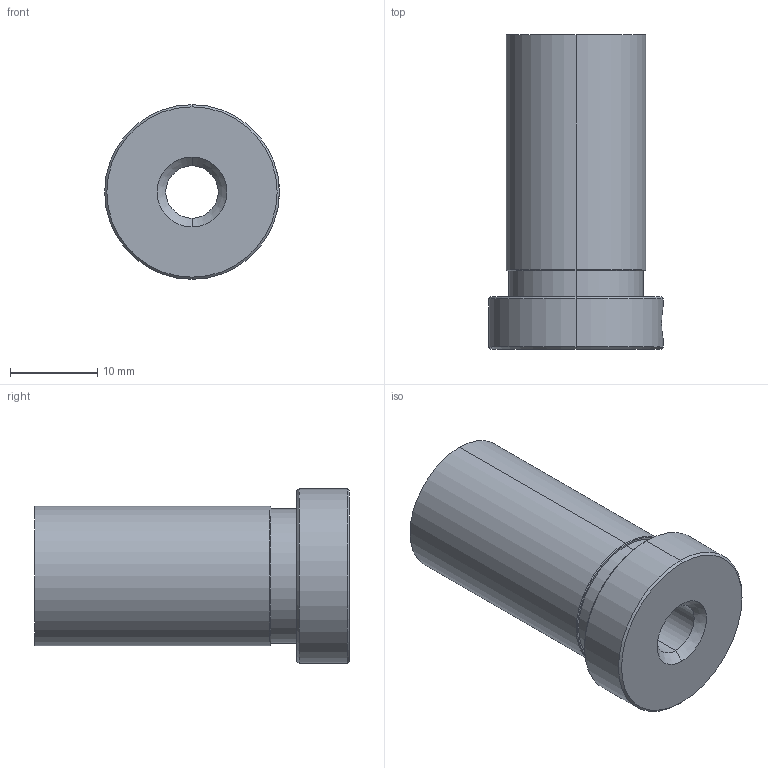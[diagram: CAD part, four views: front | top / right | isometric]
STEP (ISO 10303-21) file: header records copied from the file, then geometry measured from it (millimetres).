
FILE_DESCRIPTION (( 'STEP AP214' ), '1' );
FILE_NAME ('SP16.36.STEP', '2019-11-11T13:15:08', ( '' ), ( '' ), 'SwSTEP 2.0', 'SolidWorks 2014', '' );
FILE_SCHEMA (( 'AUTOMOTIVE_DESIGN' ));
Length unit declared in the file: millimetre
Products named in the file (1): SP16.36
Bounding box: 20 x 36 x 20 mm (x, y, z)
Volume: 5934.7 mm3; surface area: 3396 mm2
Topology: 1 solids, 1 shells, 34 faces, 70 edges, 41 vertices
Faces by surface type: cone 14, cylinder 14, plane 6
Entity records: 974 total; most frequent: CARTESIAN_POINT 198, DIRECTION 174, ORIENTED_EDGE 136, AXIS2_PLACEMENT_3D 73, EDGE_CURVE 68, EDGE_LOOP 41, VERTEX_POINT 41, CIRCLE 38
